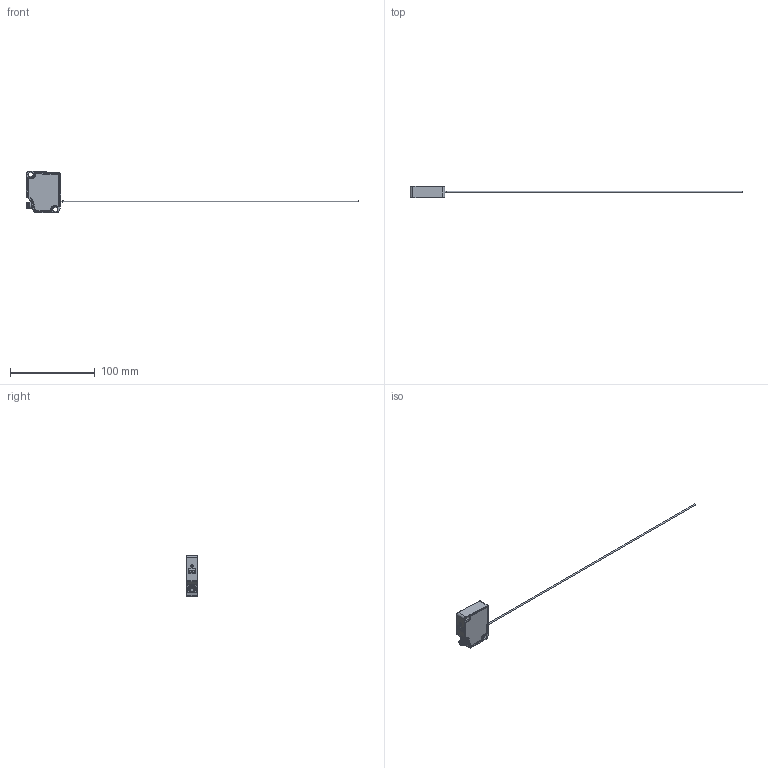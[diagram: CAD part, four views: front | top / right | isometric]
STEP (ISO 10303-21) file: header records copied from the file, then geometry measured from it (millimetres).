
FILE_DESCRIPTION( ( 'Unknown' ), '1' );
FILE_NAME( 'X:/SolidEdge/Models/Dokumentationen/Opto/OWLS/Vereinfachte Modelle/Neutralformate/OWLS-4040-AE-S2R.par.stp', 'Unknown', ( 'Unknown' ), ( 'Unknown' ), 'PSStep 19.0.9', 'Unknown', ' ' );
FILE_SCHEMA( ( 'AUTOMOTIVE_DESIGN { 1 0 10303 214 1 1 1 1 }' ) );
Length unit declared in the file: millimetre
Products named in the file (4): Assem1; OWLS-4040-AE-S2R; OWLS-4040-AE-S2R-Strahlverlauf-Modul-10166218
Assembly tree (3 placements, depth 2):
  Assem1
    OWLS-4040-AE-S2R
    OWLS-4040-AE-S2R
    OWLS-4040-AE-S2R-Strahlverlauf-Modul-10166218
Bounding box: 390.85 x 13.6 x 49 mm (x, y, z)
Volume: 23428.2 mm3; surface area: 8418.8 mm2
Topology: 3 solids, 3 shells, 286 faces, 746 edges, 474 vertices
Faces by surface type: plane 117, cylinder 111, cone 21, torus 21, bspline 9, sphere 5, revolution 2
Full cylindrical faces by diameter (mm): 0.5 x1, 1 x4, 1.5 x1, 3.15 x1, 5.77 x1, 6.5 x2, 6.9 x1, 8 x1
Entity records: 12130 total; most frequent: CARTESIAN_POINT 2746, DIRECTION 1528, ORIENTED_EDGE 1422, EDGE_CURVE 711, AXIS2_PLACEMENT_3D 561, VERTEX_POINT 468, LINE 404, VECTOR 404
